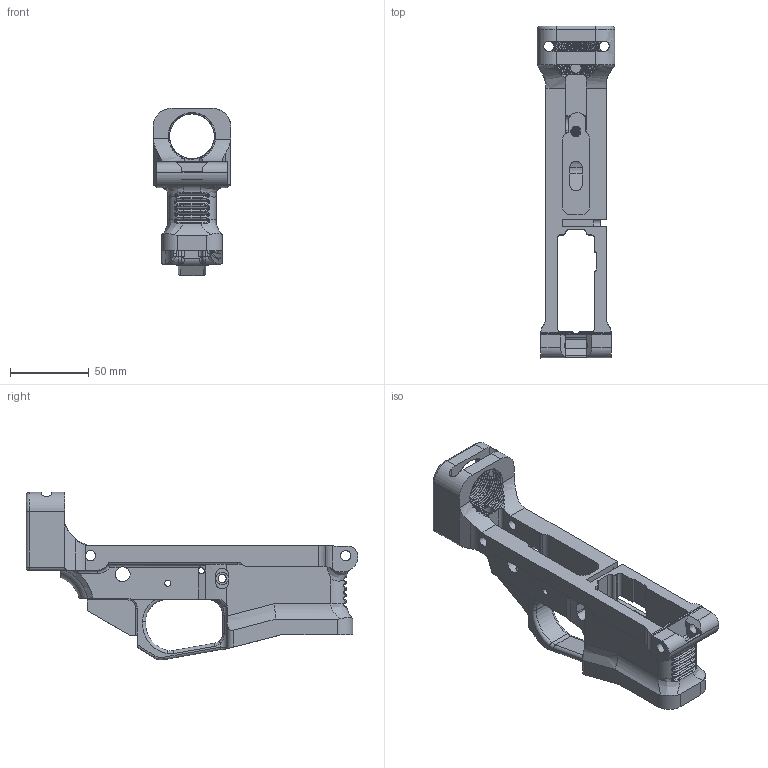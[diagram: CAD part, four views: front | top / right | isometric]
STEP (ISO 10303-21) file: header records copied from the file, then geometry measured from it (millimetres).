
FILE_DESCRIPTION(/* description */ (''),/* implementation_level */ '2;1');
FILE_NAME(/* name */ 'AR-15 - Final.step',/* time_stamp */ '2022-04-06T17:25:30-04:00',/* author */ (''),/* organization */ (''),/* preprocessor_version */ 'ST-DEVELOPER v18.1',/* originating_system */ 'Autodesk Translation Framework v10.14.0.1471',/* authorisation */ '');
FILE_SCHEMA (('AUTOMOTIVE_DESIGN { 1 0 10303 214 3 1 1 }'));
Products named in the file (2): AR-15 - Final; AR15 Frame
Assembly tree (1 placements, depth 2):
  AR-15 - Final
    AR15 Frame
Bounding box: 49.27 x 210.49 x 106.26 mm (x, y, z)
Volume: 170939.7 mm3; surface area: 66575.6 mm2
Topology: 1 solids, 1 shells, 673 faces, 1912 edges, 1225 vertices
Faces by surface type: cylinder 273, plane 205, bspline 162, torus 24, cone 7, sphere 2
Full cylindrical faces by diameter (mm): 3.175 x1, 3.962 x4, 3.969 x1, 5.172 x21, 5.182 x1, 6.35 x20, 6.5 x6, 6.75 x1, 7.938 x1, 9.525 x2, 28.47 x9, 30.043 x9
Entity records: 42751 total; most frequent: CARTESIAN_POINT 26711, ORIENTED_EDGE 3812, DIRECTION 2666, EDGE_CURVE 1906, VERTEX_POINT 1225, AXIS2_PLACEMENT_3D 942, LINE 782, VECTOR 782
